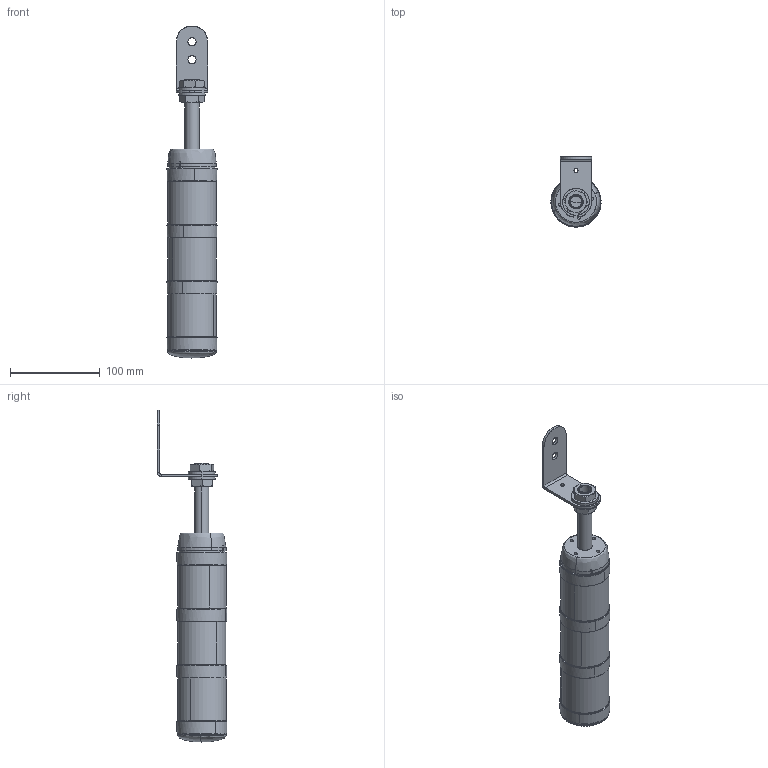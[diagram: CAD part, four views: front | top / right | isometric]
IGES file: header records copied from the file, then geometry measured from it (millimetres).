
Start section: SolidWorks IGES file using analytic representation for surfaces
Global section: file name: C:\Dokumente und Einstellungen\MMark\Desktop\22092xx3xxx - BR50-Rohr100 3-stufig.IGS; native system: SolidWorks 2009; preprocessor: SolidWorks 2009; author: MMark; date: 100511.130904; units: millimetre
Bounding box: 55.93 x 77.99 x 370.85 mm (x, y, z)
Surface area: 73322.9 mm2 (no closed solid volume)
Topology: 0 solids, 0 shells, 190 faces, 4088 edges, 4085 vertices
Faces by surface type: bspline 95, revolution 95
